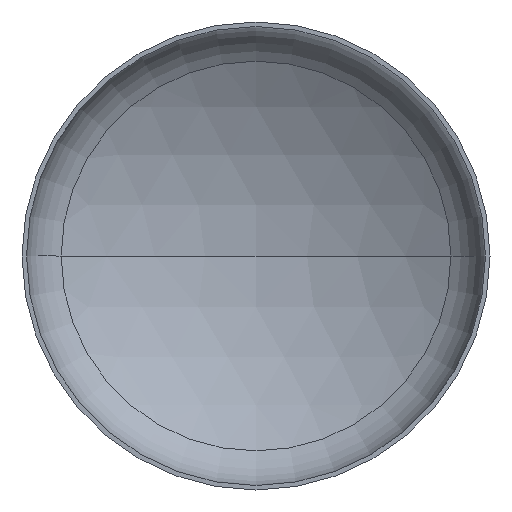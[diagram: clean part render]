
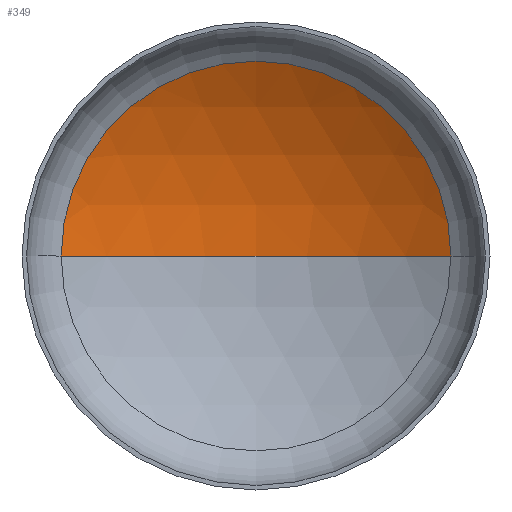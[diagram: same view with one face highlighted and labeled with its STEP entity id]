
A CAD part, front view. The second image highlights one B-rep face of the part: STEP entity #349.
In plain terms, the highlighted spherical face has radius 4800 mm.
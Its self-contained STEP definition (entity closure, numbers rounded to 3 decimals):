
#2 = CARTESIAN_POINT ( 'NONE',  ( 0., -3188.676, 0. ) ) ;
#14 = AXIS2_PLACEMENT_3D ( 'NONE', #190, #344, #298 ) ;
#45 = SPHERICAL_SURFACE ( 'NONE', #14, 4800. ) ;
#51 = DIRECTION ( 'NONE',  ( 0., 0., -1. ) ) ;
#75 = AXIS2_PLACEMENT_3D ( 'NONE', #2, #278, #323 ) ;
#78 = AXIS2_PLACEMENT_3D ( 'NONE', #376, #51, #369 ) ;
#83 = AXIS2_PLACEMENT_3D ( 'NONE', #220, #176, #177 ) ;
#85 = CIRCLE ( 'NONE', #75, 4800. ) ;
#91 = VERTEX_POINT ( 'NONE', #239 ) ;
#129 = ORIENTED_EDGE ( 'NONE', *, *, #175, .T. ) ;
#163 = ORIENTED_EDGE ( 'NONE', *, *, #178, .T. ) ;
#175 = EDGE_CURVE ( 'NONE', #91, #250, #403, .T. ) ;
#176 = DIRECTION ( 'NONE',  ( 0., -1., 0. ) ) ;
#177 = DIRECTION ( 'NONE',  ( 1., 0., 0. ) ) ;
#178 = EDGE_CURVE ( 'NONE', #192, #91, #282, .T. ) ;
#189 = CARTESIAN_POINT ( 'NONE',  ( 0., 1611.324, 0. ) ) ;
#190 = CARTESIAN_POINT ( 'NONE',  ( 0., -3188.676, 0. ) ) ;
#192 = VERTEX_POINT ( 'NONE', #189 ) ;
#193 = EDGE_LOOP ( 'NONE', ( #266, #163, #129 ) ) ;
#194 = EDGE_CURVE ( 'NONE', #192, #250, #85, .T. ) ;
#220 = CARTESIAN_POINT ( 'NONE',  ( 0., 909.813, 0. ) ) ;
#239 = CARTESIAN_POINT ( 'NONE',  ( 2498.477, 909.813, 0. ) ) ;
#250 = VERTEX_POINT ( 'NONE', #395 ) ;
#266 = ORIENTED_EDGE ( 'NONE', *, *, #194, .F. ) ;
#278 = DIRECTION ( 'NONE',  ( 0., 0., 1. ) ) ;
#282 = CIRCLE ( 'NONE', #78, 4800. ) ;
#298 = DIRECTION ( 'NONE',  ( -1., 0., 0. ) ) ;
#311 = FACE_OUTER_BOUND ( 'NONE', #193, .T. ) ;
#323 = DIRECTION ( 'NONE',  ( 1., 0., 0. ) ) ;
#344 = DIRECTION ( 'NONE',  ( 0., 0., -1. ) ) ;
#349 = ADVANCED_FACE ( 'NONE', ( #311 ), #45, .F. ) ;
#369 = DIRECTION ( 'NONE',  ( -1., 0., 0. ) ) ;
#376 = CARTESIAN_POINT ( 'NONE',  ( 0., -3188.676, 0. ) ) ;
#395 = CARTESIAN_POINT ( 'NONE',  ( -2498.477, 909.813, 0. ) ) ;
#403 = CIRCLE ( 'NONE', #83, 2498.477 ) ;
